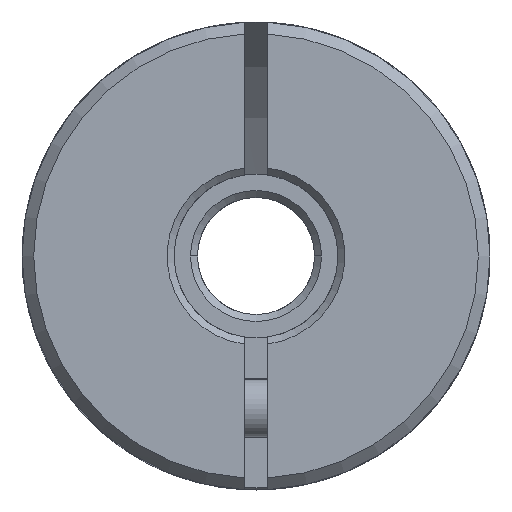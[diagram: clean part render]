
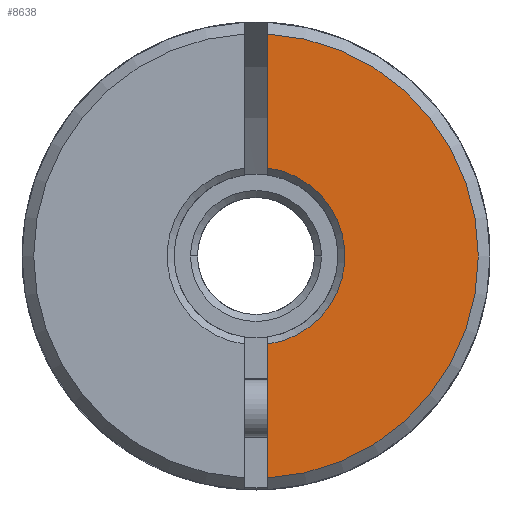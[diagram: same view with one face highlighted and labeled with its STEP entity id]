
A CAD part, front view. The second image highlights one B-rep face of the part: STEP entity #8638.
In plain terms, the highlighted planar face has unit normal (0, -1, 0).
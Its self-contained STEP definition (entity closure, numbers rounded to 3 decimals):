
#539 = LINE ( 'NONE', #8838, #2144 ) ;
#905 = EDGE_LOOP ( 'NONE', ( #8608, #4609, #6457, #2828 ) ) ;
#1235 = CARTESIAN_POINT ( 'NONE',  ( 0., -33., 0. ) ) ;
#1448 = VERTEX_POINT ( 'NONE', #5441 ) ;
#1449 = CARTESIAN_POINT ( 'NONE',  ( 0.5, -33., -12.292 ) ) ;
#1548 = CIRCLE ( 'NONE', #1859, 9.5 ) ;
#1859 = AXIS2_PLACEMENT_3D ( 'NONE', #8451, #3714, #5344 ) ;
#1934 = CIRCLE ( 'NONE', #3139, 3.8 ) ;
#2144 = VECTOR ( 'NONE', #4089, 1000. ) ;
#2828 = ORIENTED_EDGE ( 'NONE', *, *, #8139, .T. ) ;
#2933 = VECTOR ( 'NONE', #3096, 1000. ) ;
#3096 = DIRECTION ( 'NONE',  ( 0., 0., 1. ) ) ;
#3139 = AXIS2_PLACEMENT_3D ( 'NONE', #1235, #4491, #3566 ) ;
#3566 = DIRECTION ( 'NONE',  ( 0., 0., -1. ) ) ;
#3714 = DIRECTION ( 'NONE',  ( 0., -1., 0. ) ) ;
#3980 = PLANE ( 'NONE',  #9777 ) ;
#4089 = DIRECTION ( 'NONE',  ( 0., 0., 1. ) ) ;
#4296 = FACE_OUTER_BOUND ( 'NONE', #905, .T. ) ;
#4428 = CARTESIAN_POINT ( 'NONE',  ( 0.5, -33., 9.487 ) ) ;
#4491 = DIRECTION ( 'NONE',  ( 0., 1., 0. ) ) ;
#4609 = ORIENTED_EDGE ( 'NONE', *, *, #8325, .T. ) ;
#4758 = CARTESIAN_POINT ( 'NONE',  ( 50., -33., -12.292 ) ) ;
#5162 = EDGE_CURVE ( 'NONE', #6584, #6068, #539, .T. ) ;
#5344 = DIRECTION ( 'NONE',  ( 0., 0., -1. ) ) ;
#5389 = CARTESIAN_POINT ( 'NONE',  ( 0.5, -33., -3.767 ) ) ;
#5441 = CARTESIAN_POINT ( 'NONE',  ( 0.5, -33., 3.767 ) ) ;
#5724 = DIRECTION ( 'NONE',  ( 0., 0., -1. ) ) ;
#6068 = VERTEX_POINT ( 'NONE', #5389 ) ;
#6457 = ORIENTED_EDGE ( 'NONE', *, *, #8442, .F. ) ;
#6584 = VERTEX_POINT ( 'NONE', #8617 ) ;
#8139 = EDGE_CURVE ( 'NONE', #1448, #6068, #1934, .T. ) ;
#8325 = EDGE_CURVE ( 'NONE', #6584, #9068, #1548, .T. ) ;
#8442 = EDGE_CURVE ( 'NONE', #1448, #9068, #10231, .T. ) ;
#8451 = CARTESIAN_POINT ( 'NONE',  ( 0., -33., 0. ) ) ;
#8608 = ORIENTED_EDGE ( 'NONE', *, *, #5162, .F. ) ;
#8617 = CARTESIAN_POINT ( 'NONE',  ( 0.5, -33., -9.487 ) ) ;
#8638 = ADVANCED_FACE ( 'NONE', ( #4296 ), #3980, .F. ) ;
#8838 = CARTESIAN_POINT ( 'NONE',  ( 0.5, -33., -12.292 ) ) ;
#9068 = VERTEX_POINT ( 'NONE', #4428 ) ;
#9541 = DIRECTION ( 'NONE',  ( 0., 1., 0. ) ) ;
#9777 = AXIS2_PLACEMENT_3D ( 'NONE', #4758, #9541, #5724 ) ;
#10231 = LINE ( 'NONE', #1449, #2933 ) ;
